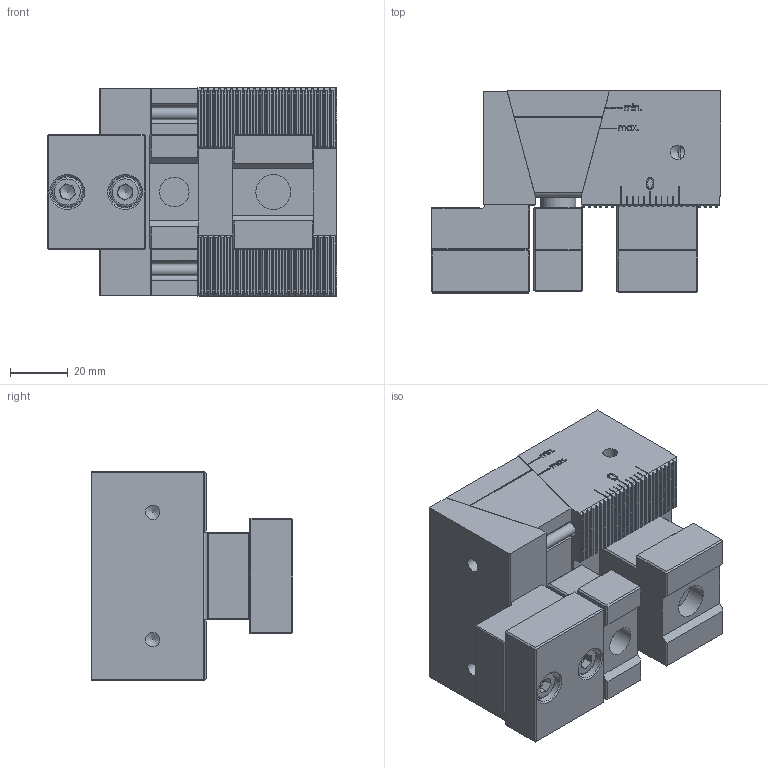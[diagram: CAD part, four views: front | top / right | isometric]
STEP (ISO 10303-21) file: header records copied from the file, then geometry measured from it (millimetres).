
FILE_DESCRIPTION (( 'STEP AP203' ), '1' );
FILE_NAME ('3D-6921334002031.STEP', '2023-09-15T12:27:11', ( '' ), ( '' ), 'SwSTEP 2.0', 'SolidWorks 2021', '' );
FILE_SCHEMA (( 'CONFIG_CONTROL_DESIGN' ));
Length unit declared in the file: millimetre
Products named in the file (14): 6921334006100; 6921334002300; 6921334002200; 8047202010000; 6921334002000; 8006101245050_ISO 4762 M12 x 45; 8006100616050_ISO 4762 M6 x 16; 6921334006000; 6921334006031; 6807105608000; 3D-6921334002031; 6921334002100; 8006101445050_DIN 912 M14 x 45 --- 25N; 8006100460800_DIN 912 M4 x 60 --- 12N
Assembly tree (16 placements, depth 3):
  3D-6921334002031
    6921334006031
      6921334006000
      6921334006100
      8006101445050_DIN 912 M14 x 45 --- 25N
    6807105608000  x2
    8006100460800_DIN 912 M4 x 60 --- 12N  x2
    6921334002100
    8006101245050_ISO 4762 M12 x 45
    8047202010000
    6921334002300
    6921334002000
    8006100616050_ISO 4762 M6 x 16  x2
    6921334002200
Bounding box: 100.14 x 69.75 x 71.96 mm (x, y, z)
Volume: 295814.1 mm3; surface area: 74763 mm2
Topology: 15 solids, 15 shells, 1374 faces, 3637 edges, 2367 vertices
Faces by surface type: plane 950, bspline 282, cylinder 93, cone 34, torus 15
Full cylindrical faces by diameter (mm): 2 x2, 3.3 x2, 4 x2, 5 x8, 5.4 x2, 6 x2, 6.1 x2, 7 x2, 7.5 x2, 10.2 x1, 10.22 x2, 11 x2, 12 x2, 12.5 x1, 14 x1, 16 x1, 18.27 x1, 19 x2, 20.4 x1, 21 x1, 23 x1
Entity records: 62943 total; most frequent: CARTESIAN_POINT 31060, ORIENTED_EDGE 6840, DIRECTION 5011, EDGE_CURVE 3420, LINE 2611, VECTOR 2611, VERTEX_POINT 2271, EDGE_LOOP 1499
